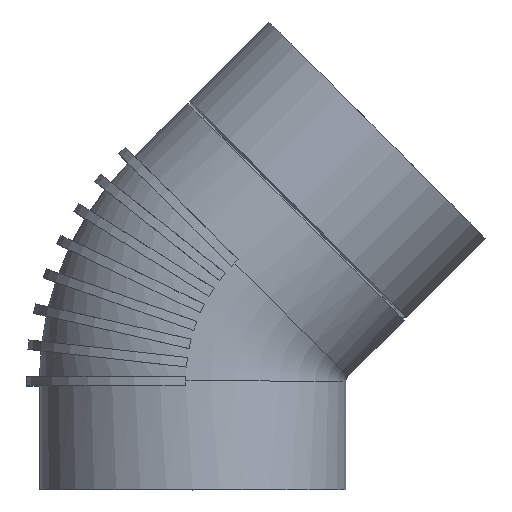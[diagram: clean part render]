
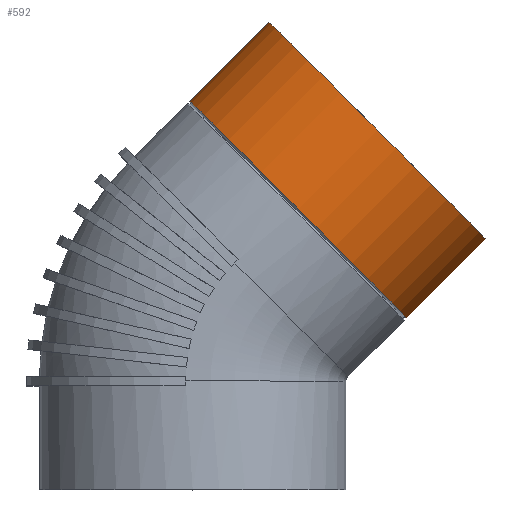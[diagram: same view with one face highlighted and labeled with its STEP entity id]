
A CAD part, top view. The second image highlights one B-rep face of the part: STEP entity #592.
In plain terms, the highlighted cylindrical face has radius 67.5 mm (diameter 135 mm), a full revolution.
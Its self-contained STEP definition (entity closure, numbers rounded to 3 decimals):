
#96=CYLINDRICAL_SURFACE($,#659,67.5);
#114=FACE_BOUND($,#200,.T.);
#148=FACE_OUTER_BOUND($,#199,.T.);
#199=EDGE_LOOP($,(#518));
#200=EDGE_LOOP($,(#519));
#202=CIRCLE($,#598,67.5);
#229=CIRCLE($,#658,67.5);
#231=VERTEX_POINT($,#798);
#288=VERTEX_POINT($,#1943);
#290=EDGE_CURVE($,#231,#231,#202,.T.);
#365=EDGE_CURVE($,#288,#288,#229,.T.);
#518=ORIENTED_EDGE($,*,*,#290,.T.);
#519=ORIENTED_EDGE($,*,*,#365,.T.);
#592=ADVANCED_FACE($,(#148,#114),#96,.T.);
#598=AXIS2_PLACEMENT_3D($,#799,#666,#667);
#658=AXIS2_PLACEMENT_3D($,#1944,#790,#791);
#659=AXIS2_PLACEMENT_3D($,#1945,#792,#793);
#666=DIRECTION('center_axis',(0.707,0.707,0.));
#667=DIRECTION('ref_axis',(0.707,-0.707,0.));
#790=DIRECTION('center_axis',(-0.707,-0.707,0.));
#791=DIRECTION('ref_axis',(0.707,-0.707,0.));
#792=DIRECTION('center_axis',(-0.707,-0.707,0.));
#793=DIRECTION('ref_axis',(0.707,-0.707,0.));
#798=CARTESIAN_POINT('',(94.243,75.783,0.));
#799=CARTESIAN_POINT('Origin',(46.513,123.513,0.));
#1943=CARTESIAN_POINT('',(129.047,110.588,0.));
#1944=CARTESIAN_POINT('Origin',(81.317,158.317,0.));
#1945=CARTESIAN_POINT('Origin',(50.983,127.983,0.));
